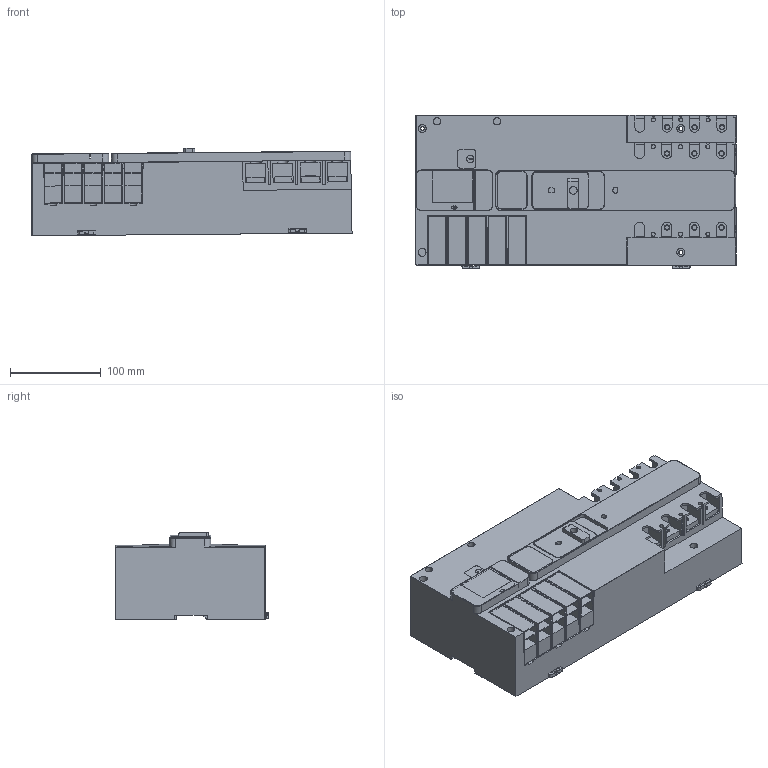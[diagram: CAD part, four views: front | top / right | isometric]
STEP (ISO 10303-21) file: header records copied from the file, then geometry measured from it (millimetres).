
FILE_DESCRIPTION((''),'2;1');
FILE_NAME('R2__IEC__3P__RS_3D_SIMPLIFIED_ASM','2021-12-08T15:04:18',('SESA530330'),('Schneider-Electric'),'CREO PARAMETRIC BY PTC INC, 2019471','CREO PARAMETRIC BY PTC INC, 2019471','');
FILE_SCHEMA(('CONFIG_CONTROL_DESIGN'));
Length unit declared in the file: millimetre
Products named in the file (3): R2_IEC_3P_RS_3D_SIMPLIFIED_3; R2_IEC_3P_RS_3D_SIMPLIFIED_ASM__ASM; R2__IEC__3P__RS_3D_SIMPLIFIED_ASM
Assembly tree (2 placements, depth 3):
  R2__IEC__3P__RS_3D_SIMPLIFIED_ASM
    R2_IEC_3P_RS_3D_SIMPLIFIED_ASM__ASM
      R2_IEC_3P_RS_3D_SIMPLIFIED_3
Bounding box: 351.73 x 168.22 x 96.3 mm (x, y, z)
Volume: 4210910.3 mm3; surface area: 315321.6 mm2
Topology: 1 solids, 1 shells, 1380 faces, 3668 edges, 2341 vertices
Faces by surface type: plane 692, cylinder 505, torus 110, extrusion 32, sphere 23, bspline 14, cone 4
Entity records: 43904 total; most frequent: CARTESIAN_POINT 9043, ORIENTED_EDGE 7290, DIRECTION 7274, EDGE_CURVE 3645, AXIS2_PLACEMENT_3D 2440, VECTOR 2394, LINE 2362, VERTEX_POINT 2341
